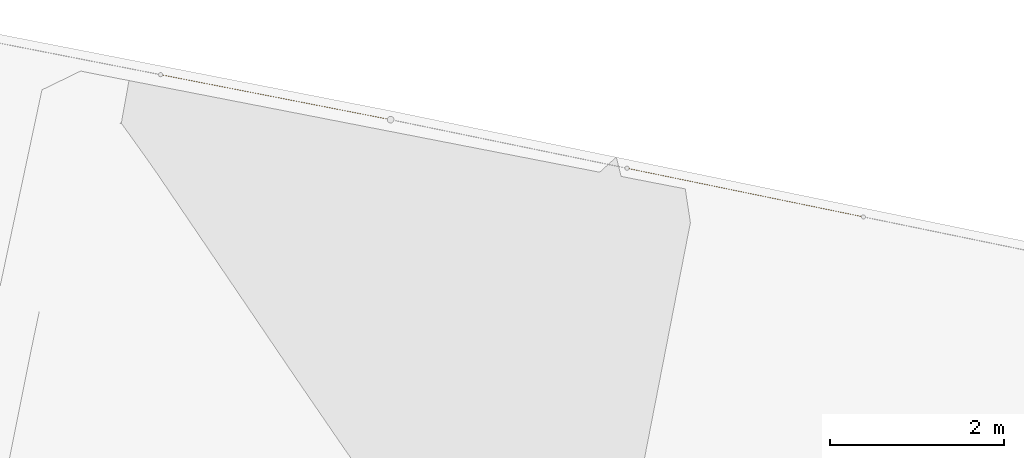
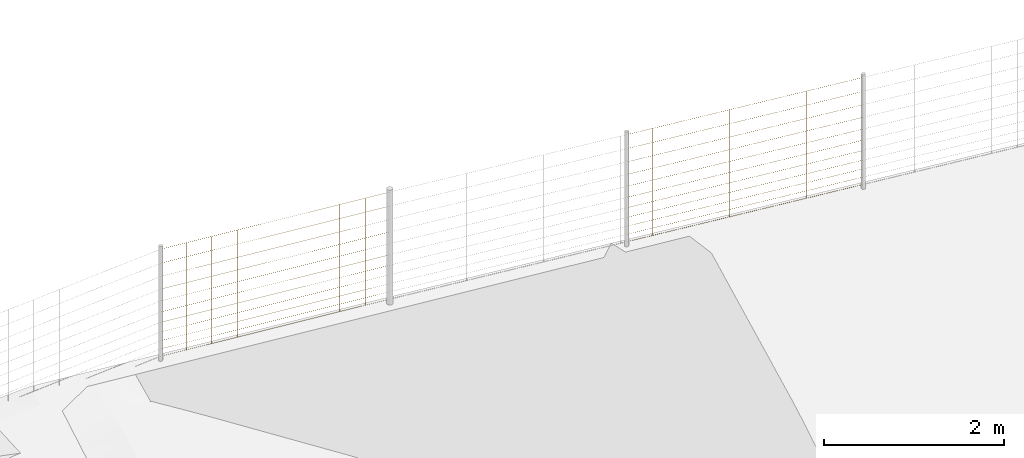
# Not in any storey, part 33 of 72: 2 railings.
"""IFC4 model written with IfcOpenShell, lengths in metres."""

from ifc_helpers import new_model, si_unit, direction, frame, origin_with_axes, place, context, subcontext, project, spatial, polygons, material, element, save


model = new_model("IFC4")

# Units and contexts
model_context = context("Model", 3, precision=1e-05, world=origin_with_axes(), true_north=direction((0.0, 1.0)))
body_context = subcontext(model_context, "Body", "Model", "MODEL_VIEW")
ifc_project = project(units=[si_unit("AREAUNIT", "SQUARE_METRE"), si_unit("VOLUMEUNIT", "CUBIC_METRE"), si_unit("LENGTHUNIT", "METRE")], contexts=[model_context])

# Site
site_placement = place(None, origin_with_axes())
site = spatial("IfcSite", under=ifc_project, at=site_placement, Name="Lares · Rua das Mercês · artigo 4771")

# Railings
ifc_material = material(Name="Aço galvanizado / Stahl verzinkt", Category="steel")
railing_1_placement = place(site_placement, frame((0.0, 0.0, 0.0), z_axis=(0.0, 0.0, 1.0), x_axis=(1.0, -1.03767253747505e-17, 0.0)))
element("IfcRailing", 1, at=railing_1_placement, inside=site, material=ifc_material, Name="Vedação · rede ovelheira 1.052", ObjectType="SHEEP_WIRE_FENCE", PredefinedType="USERDEFINED", context=body_context, shape_type="Tessellation", body=[
    polygons([(3.20927694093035, 23.9970637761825, 13.3124327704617), (3.20965407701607, 23.9985184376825, 13.310935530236), (3.20985269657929, 24.0000080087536, 13.3124327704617), (3.20947556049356, 23.9985533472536, 13.3139300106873), (5.84734411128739, 23.4811799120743, 13.4757158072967), (5.84772124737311, 23.4826345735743, 13.4742185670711), (5.84791986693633, 23.4841241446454, 13.4757158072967), (5.8475427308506, 23.4826694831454, 13.4772130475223), (3.20927694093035, 23.9970637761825, 13.4124327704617), (3.20965407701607, 23.9985184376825, 13.410935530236), (3.20985269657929, 24.0000080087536, 13.4124327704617), (3.20947556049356, 23.9985533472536, 13.4139300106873), (5.84734411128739, 23.4811799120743, 13.5757158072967), (5.84772124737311, 23.4826345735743, 13.5742185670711), (5.84791986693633, 23.4841241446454, 13.5757158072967), (5.8475427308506, 23.4826694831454, 13.5772130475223), (3.20927694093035, 23.9970637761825, 13.5224327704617), (3.20965407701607, 23.9985184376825, 13.520935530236), (3.20985269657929, 24.0000080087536, 13.5224327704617), (3.20947556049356, 23.9985533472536, 13.5239300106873), (5.84734411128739, 23.4811799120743, 13.6857158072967), (5.84772124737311, 23.4826345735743, 13.6842185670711), (5.84791986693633, 23.4841241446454, 13.6857158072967), (5.8475427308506, 23.4826694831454, 13.6872130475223), (3.20927694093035, 23.9970637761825, 13.6424327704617), (3.20965407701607, 23.9985184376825, 13.640935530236), (3.20985269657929, 24.0000080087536, 13.6424327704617), (3.20947556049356, 23.9985533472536, 13.6439300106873), (5.84734411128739, 23.4811799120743, 13.8057158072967), (5.84772124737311, 23.4826345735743, 13.8042185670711), (5.84791986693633, 23.4841241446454, 13.8057158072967), (5.8475427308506, 23.4826694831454, 13.8072130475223), (3.20927694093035, 23.9970637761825, 13.7724327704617), (3.20965407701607, 23.9985184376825, 13.770935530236), (3.20985269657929, 24.0000080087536, 13.7724327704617), (3.20947556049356, 23.9985533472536, 13.7739300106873), (5.84734411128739, 23.4811799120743, 13.9357158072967), (5.84772124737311, 23.4826345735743, 13.9342185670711), (5.84791986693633, 23.4841241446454, 13.9357158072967), (5.8475427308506, 23.4826694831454, 13.9372130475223), (3.20927694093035, 23.9970637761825, 13.9124327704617), (3.20965407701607, 23.9985184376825, 13.910935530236), (3.20985269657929, 24.0000080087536, 13.9124327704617), (3.20947556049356, 23.9985533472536, 13.9139300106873), (5.84734411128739, 23.4811799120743, 14.0757158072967), (5.84772124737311, 23.4826345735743, 14.0742185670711), (5.84791986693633, 23.4841241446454, 14.0757158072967), (5.8475427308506, 23.4826694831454, 14.0772130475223), (3.20927694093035, 23.9970637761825, 14.0624327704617), (3.20965407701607, 23.9985184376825, 14.060935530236), (3.20985269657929, 24.0000080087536, 14.0624327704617), (3.20947556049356, 23.9985533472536, 14.0639300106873), (5.84734411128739, 23.4811799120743, 14.2257158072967), (5.84772124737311, 23.4826345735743, 14.2242185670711), (5.84791986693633, 23.4841241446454, 14.2257158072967), (5.8475427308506, 23.4826694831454, 14.2272130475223), (3.20927694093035, 23.9970637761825, 14.2224327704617), (3.20965407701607, 23.9985184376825, 14.220935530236), (3.20985269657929, 24.0000080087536, 14.2224327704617), (3.20947556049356, 23.9985533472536, 14.2239300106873), (5.84734411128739, 23.4811799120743, 14.3857158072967), (5.84772124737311, 23.4826345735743, 14.3842185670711), (5.84791986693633, 23.4841241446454, 14.3857158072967), (5.8475427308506, 23.4826694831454, 14.3872130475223), (3.20927694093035, 23.9970637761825, 14.3924327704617), (3.20965407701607, 23.9985184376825, 14.390935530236), (3.20985269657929, 24.0000080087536, 14.3924327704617), (3.20947556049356, 23.9985533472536, 14.3939300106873), (5.84734411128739, 23.4811799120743, 14.5557158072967), (5.84772124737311, 23.4826345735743, 14.5542185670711), (5.84791986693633, 23.4841241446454, 14.5557158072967), (5.8475427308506, 23.4826694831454, 14.5572130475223), (3.20927694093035, 23.9970637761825, 14.5724327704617), (3.20965407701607, 23.9985184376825, 14.570935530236), (3.20985269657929, 24.0000080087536, 14.5724327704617), (3.20947556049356, 23.9985533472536, 14.5739300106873), (5.84734411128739, 23.4811799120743, 14.7357158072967), (5.84772124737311, 23.4826345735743, 14.7342185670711), (5.84791986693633, 23.4841241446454, 14.7357158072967), (5.8475427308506, 23.4826694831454, 14.7372130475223), (3.20927694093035, 23.9970637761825, 14.7624327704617), (3.20965407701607, 23.9985184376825, 14.760935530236), (3.20985269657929, 24.0000080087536, 14.7624327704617), (3.20947556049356, 23.9985533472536, 14.7639300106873), (5.84734411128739, 23.4811799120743, 14.9257158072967), (5.84772124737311, 23.4826345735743, 14.9242185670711), (5.84791986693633, 23.4841241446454, 14.9257158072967), (5.8475427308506, 23.4826694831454, 14.9272130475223), (3.50398807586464, 23.9424603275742, 13.3306560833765), (3.50248807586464, 23.9409603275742, 13.3306560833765), (3.50398807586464, 23.9394603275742, 13.3306560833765), (3.50548807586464, 23.9409603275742, 13.3306560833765), (3.50398807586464, 23.9424603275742, 14.7806560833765), (3.50248807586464, 23.9409603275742, 14.7806560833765), (3.50398807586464, 23.9394603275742, 14.7806560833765), (3.50548807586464, 23.9409603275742, 14.7806560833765), (3.79841133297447, 23.8848847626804, 13.3488793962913), (3.79691133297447, 23.8833847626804, 13.3488793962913), (3.79841133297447, 23.8818847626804, 13.3488793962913), (3.79991133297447, 23.8833847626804, 13.3488793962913), (3.79841133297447, 23.8848847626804, 14.7988793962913), (3.79691133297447, 23.8833847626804, 14.7988793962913), (3.79841133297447, 23.8818847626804, 14.7988793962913), (3.79991133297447, 23.8833847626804, 14.7988793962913), (4.0928345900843, 23.8273091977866, 13.3671027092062), (4.0913345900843, 23.8258091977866, 13.3671027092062), (4.0928345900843, 23.8243091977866, 13.3671027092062), (4.0943345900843, 23.8258091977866, 13.3671027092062), (4.0928345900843, 23.8273091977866, 14.8171027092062), (4.0913345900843, 23.8258091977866, 14.8171027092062), (4.0928345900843, 23.8243091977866, 14.8171027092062), (4.0943345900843, 23.8258091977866, 14.8171027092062), (4.38725784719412, 23.7697336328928, 13.385326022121), (4.38575784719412, 23.7682336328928, 13.385326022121), (4.38725784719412, 23.7667336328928, 13.385326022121), (4.38875784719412, 23.7682336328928, 13.385326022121), (4.38725784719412, 23.7697336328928, 14.835326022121), (4.38575784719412, 23.7682336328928, 14.835326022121), (4.38725784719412, 23.7667336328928, 14.835326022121), (4.38875784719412, 23.7682336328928, 14.835326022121), (4.68168110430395, 23.712158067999, 13.4035493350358), (4.68018110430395, 23.710658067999, 13.4035493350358), (4.68168110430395, 23.709158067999, 13.4035493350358), (4.68318110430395, 23.710658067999, 13.4035493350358), (4.68168110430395, 23.712158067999, 14.8535493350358), (4.68018110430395, 23.710658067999, 14.8535493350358), (4.68168110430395, 23.709158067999, 14.8535493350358), (4.68318110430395, 23.710658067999, 14.8535493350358), (4.97610436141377, 23.6545825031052, 13.4217726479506), (4.97460436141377, 23.6530825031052, 13.4217726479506), (4.97610436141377, 23.6515825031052, 13.4217726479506), (4.97760436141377, 23.6530825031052, 13.4217726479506), (4.97610436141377, 23.6545825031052, 14.8717726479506), (4.97460436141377, 23.6530825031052, 14.8717726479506), (4.97610436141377, 23.6515825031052, 14.8717726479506), (4.97760436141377, 23.6530825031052, 14.8717726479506), (5.2705276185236, 23.5970069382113, 13.4399959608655), (5.2690276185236, 23.5955069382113, 13.4399959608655), (5.2705276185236, 23.5940069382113, 13.4399959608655), (5.2720276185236, 23.5955069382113, 13.4399959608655), (5.2705276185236, 23.5970069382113, 14.8899959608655), (5.2690276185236, 23.5955069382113, 14.8899959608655), (5.2705276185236, 23.5940069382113, 14.8899959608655), (5.2720276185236, 23.5955069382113, 14.8899959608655), (5.56495087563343, 23.5394313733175, 13.4582192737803), (5.56345087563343, 23.5379313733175, 13.4582192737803), (5.56495087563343, 23.5364313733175, 13.4582192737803), (5.56645087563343, 23.5379313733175, 13.4582192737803), (5.56495087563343, 23.5394313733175, 14.9082192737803), (5.56345087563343, 23.5379313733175, 14.9082192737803), (5.56495087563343, 23.5364313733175, 14.9082192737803), (5.56645087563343, 23.5379313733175, 14.9082192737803)], [[[4, 3, 2, 1]], [[5, 6, 7, 8]], [[1, 2, 6, 5]], [[2, 3, 7, 6]], [[3, 4, 8, 7]], [[4, 1, 5, 8]], [[12, 11, 10, 9]], [[13, 14, 15, 16]], [[9, 10, 14, 13]], [[10, 11, 15, 14]], [[11, 12, 16, 15]], [[12, 9, 13, 16]], [[20, 19, 18, 17]], [[21, 22, 23, 24]], [[17, 18, 22, 21]], [[18, 19, 23, 22]], [[19, 20, 24, 23]], [[20, 17, 21, 24]], [[28, 27, 26, 25]], [[29, 30, 31, 32]], [[25, 26, 30, 29]], [[26, 27, 31, 30]], [[27, 28, 32, 31]], [[28, 25, 29, 32]], [[36, 35, 34, 33]], [[37, 38, 39, 40]], [[33, 34, 38, 37]], [[34, 35, 39, 38]], [[35, 36, 40, 39]], [[36, 33, 37, 40]], [[44, 43, 42, 41]], [[45, 46, 47, 48]], [[41, 42, 46, 45]], [[42, 43, 47, 46]], [[43, 44, 48, 47]], [[44, 41, 45, 48]], [[52, 51, 50, 49]], [[53, 54, 55, 56]], [[49, 50, 54, 53]], [[50, 51, 55, 54]], [[51, 52, 56, 55]], [[52, 49, 53, 56]], [[60, 59, 58, 57]], [[61, 62, 63, 64]], [[57, 58, 62, 61]], [[58, 59, 63, 62]], [[59, 60, 64, 63]], [[60, 57, 61, 64]], [[68, 67, 66, 65]], [[69, 70, 71, 72]], [[65, 66, 70, 69]], [[66, 67, 71, 70]], [[67, 68, 72, 71]], [[68, 65, 69, 72]], [[76, 75, 74, 73]], [[77, 78, 79, 80]], [[73, 74, 78, 77]], [[74, 75, 79, 78]], [[75, 76, 80, 79]], [[76, 73, 77, 80]], [[84, 83, 82, 81]], [[85, 86, 87, 88]], [[81, 82, 86, 85]], [[82, 83, 87, 86]], [[83, 84, 88, 87]], [[84, 81, 85, 88]], [[92, 91, 90, 89]], [[93, 94, 95, 96]], [[89, 90, 94, 93]], [[90, 91, 95, 94]], [[91, 92, 96, 95]], [[92, 89, 93, 96]], [[100, 99, 98, 97]], [[101, 102, 103, 104]], [[97, 98, 102, 101]], [[98, 99, 103, 102]], [[99, 100, 104, 103]], [[100, 97, 101, 104]], [[108, 107, 106, 105]], [[109, 110, 111, 112]], [[105, 106, 110, 109]], [[106, 107, 111, 110]], [[107, 108, 112, 111]], [[108, 105, 109, 112]], [[116, 115, 114, 113]], [[117, 118, 119, 120]], [[113, 114, 118, 117]], [[114, 115, 119, 118]], [[115, 116, 120, 119]], [[116, 113, 117, 120]], [[124, 123, 122, 121]], [[125, 126, 127, 128]], [[121, 122, 126, 125]], [[122, 123, 127, 126]], [[123, 124, 128, 127]], [[124, 121, 125, 128]], [[132, 131, 130, 129]], [[133, 134, 135, 136]], [[129, 130, 134, 133]], [[130, 131, 135, 134]], [[131, 132, 136, 135]], [[132, 129, 133, 136]], [[140, 139, 138, 137]], [[141, 142, 143, 144]], [[137, 138, 142, 141]], [[138, 139, 143, 142]], [[139, 140, 144, 143]], [[140, 137, 141, 144]], [[148, 147, 146, 145]], [[149, 150, 151, 152]], [[145, 146, 150, 149]], [[146, 147, 151, 150]], [[147, 148, 152, 151]], [[148, 145, 149, 152]]]),
])
railing_2_placement = place(site_placement, frame((0.0, 0.0, 0.0), z_axis=(0.0, 0.0, 1.0), x_axis=(1.0, -1.03767253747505e-17, 0.0)))
element("IfcRailing", 2, at=railing_2_placement, inside=site, material=ifc_material, Name="Vedação · rede ovelheira 1.054", ObjectType="SHEEP_WIRE_FENCE", PredefinedType="USERDEFINED", context=body_context, shape_type="Tessellation", body=[
    polygons([(8.55881403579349, 22.9235723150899, 13.6414189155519), (8.55920397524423, 22.9250235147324, 13.6399215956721), (8.55941833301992, 22.9265108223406, 13.6414189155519), (8.55902839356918, 22.9250596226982, 13.6429162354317), (11.2702982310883, 22.3659618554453, 13.8071220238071), (11.2706881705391, 22.3674130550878, 13.8056247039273), (11.2709025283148, 22.368900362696, 13.8071220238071), (11.270512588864, 22.3674491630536, 13.8086193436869), (8.55881403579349, 22.9235723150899, 13.7414189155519), (8.55920397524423, 22.9250235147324, 13.7399215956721), (8.55941833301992, 22.9265108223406, 13.7414189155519), (8.55902839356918, 22.9250596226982, 13.7429162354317), (11.2702982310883, 22.3659618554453, 13.9071220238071), (11.2706881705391, 22.3674130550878, 13.9056247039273), (11.2709025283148, 22.368900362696, 13.9071220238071), (11.270512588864, 22.3674491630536, 13.9086193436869), (8.55881403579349, 22.9235723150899, 13.8514189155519), (8.55920397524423, 22.9250235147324, 13.8499215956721), (8.55941833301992, 22.9265108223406, 13.8514189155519), (8.55902839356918, 22.9250596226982, 13.8529162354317), (11.2702982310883, 22.3659618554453, 14.0171220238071), (11.2706881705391, 22.3674130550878, 14.0156247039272), (11.2709025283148, 22.368900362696, 14.0171220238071), (11.270512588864, 22.3674491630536, 14.0186193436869), (8.55881403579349, 22.9235723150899, 13.9714189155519), (8.55920397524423, 22.9250235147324, 13.9699215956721), (8.55941833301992, 22.9265108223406, 13.9714189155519), (8.55902839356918, 22.9250596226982, 13.9729162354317), (11.2702982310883, 22.3659618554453, 14.1371220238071), (11.2706881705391, 22.3674130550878, 14.1356247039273), (11.2709025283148, 22.368900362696, 14.1371220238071), (11.270512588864, 22.3674491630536, 14.1386193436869), (8.55881403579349, 22.9235723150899, 14.1014189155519), (8.55920397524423, 22.9250235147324, 14.0999215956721), (8.55941833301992, 22.9265108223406, 14.1014189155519), (8.55902839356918, 22.9250596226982, 14.1029162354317), (11.2702982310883, 22.3659618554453, 14.2671220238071), (11.2706881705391, 22.3674130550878, 14.2656247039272), (11.2709025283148, 22.368900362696, 14.2671220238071), (11.270512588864, 22.3674491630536, 14.2686193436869), (8.55881403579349, 22.9235723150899, 14.2414189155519), (8.55920397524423, 22.9250235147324, 14.2399215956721), (8.55941833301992, 22.9265108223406, 14.2414189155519), (8.55902839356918, 22.9250596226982, 14.2429162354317), (11.2702982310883, 22.3659618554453, 14.4071220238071), (11.2706881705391, 22.3674130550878, 14.4056247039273), (11.2709025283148, 22.368900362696, 14.4071220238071), (11.270512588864, 22.3674491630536, 14.4086193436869), (8.55881403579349, 22.9235723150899, 14.3914189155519), (8.55920397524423, 22.9250235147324, 14.3899215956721), (8.55941833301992, 22.9265108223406, 14.3914189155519), (8.55902839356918, 22.9250596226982, 14.3929162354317), (11.2702982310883, 22.3659618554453, 14.5571220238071), (11.2706881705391, 22.3674130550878, 14.5556247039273), (11.2709025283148, 22.368900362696, 14.5571220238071), (11.270512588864, 22.3674491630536, 14.5586193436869), (8.55881403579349, 22.9235723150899, 14.5514189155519), (8.55920397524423, 22.9250235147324, 14.5499215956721), (8.55941833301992, 22.9265108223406, 14.5514189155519), (8.55902839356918, 22.9250596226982, 14.5529162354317), (11.2702982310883, 22.3659618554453, 14.7171220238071), (11.2706881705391, 22.3674130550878, 14.7156247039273), (11.2709025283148, 22.368900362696, 14.7171220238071), (11.270512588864, 22.3674491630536, 14.7186193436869), (8.55881403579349, 22.9235723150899, 14.7214189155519), (8.55920397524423, 22.9250235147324, 14.7199215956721), (8.55941833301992, 22.9265108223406, 14.7214189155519), (8.55902839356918, 22.9250596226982, 14.7229162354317), (11.2702982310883, 22.3659618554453, 14.8871220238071), (11.2706881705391, 22.3674130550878, 14.8856247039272), (11.2709025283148, 22.368900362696, 14.8871220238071), (11.270512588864, 22.3674491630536, 14.8886193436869), (8.55881403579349, 22.9235723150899, 14.9014189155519), (8.55920397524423, 22.9250235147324, 14.8999215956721), (8.55941833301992, 22.9265108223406, 14.9014189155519), (8.55902839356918, 22.9250596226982, 14.9029162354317), (11.2702982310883, 22.3659618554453, 15.0671220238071), (11.2706881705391, 22.3674130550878, 15.0656247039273), (11.2709025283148, 22.368900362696, 15.0671220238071), (11.270512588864, 22.3674491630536, 15.0686193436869), (8.55881403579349, 22.9235723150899, 15.0914189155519), (8.55920397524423, 22.9250235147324, 15.0899215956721), (8.55941833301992, 22.9265108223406, 15.0914189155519), (8.55902839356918, 22.9250596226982, 15.0929162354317), (11.2702982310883, 22.3659618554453, 15.2571220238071), (11.2706881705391, 22.3674130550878, 15.2556247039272), (11.2709025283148, 22.368900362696, 15.2571220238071), (11.270512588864, 22.3674491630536, 15.2586193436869), (8.85296690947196, 22.866111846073, 13.6593766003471), (8.85146690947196, 22.864611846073, 13.6593766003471), (8.85296690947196, 22.863111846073, 13.6593766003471), (8.85446690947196, 22.864611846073, 13.6593766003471), (8.85296690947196, 22.866111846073, 15.1093766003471), (8.85146690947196, 22.864611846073, 15.1093766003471), (8.85296690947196, 22.863111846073, 15.1093766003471), (8.85446690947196, 22.864611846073, 15.1093766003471), (9.14681763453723, 22.8056821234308, 13.6773342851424), (9.14531763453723, 22.8041821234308, 13.6773342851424), (9.14681763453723, 22.8026821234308, 13.6773342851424), (9.14831763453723, 22.8041821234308, 13.6773342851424), (9.14681763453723, 22.8056821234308, 15.1273342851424), (9.14531763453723, 22.8041821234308, 15.1273342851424), (9.14681763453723, 22.8026821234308, 15.1273342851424), (9.14831763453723, 22.8041821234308, 15.1273342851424), (9.44066835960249, 22.7452524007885, 13.6952919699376), (9.43916835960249, 22.7437524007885, 13.6952919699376), (9.44066835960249, 22.7422524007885, 13.6952919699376), (9.44216835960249, 22.7437524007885, 13.6952919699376), (9.44066835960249, 22.7452524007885, 15.1452919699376), (9.43916835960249, 22.7437524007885, 15.1452919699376), (9.44066835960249, 22.7422524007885, 15.1452919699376), (9.44216835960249, 22.7437524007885, 15.1452919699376), (9.73451908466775, 22.6848226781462, 13.7132496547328), (9.73301908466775, 22.6833226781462, 13.7132496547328), (9.73451908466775, 22.6818226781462, 13.7132496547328), (9.73601908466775, 22.6833226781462, 13.7132496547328), (9.73451908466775, 22.6848226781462, 15.1632496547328), (9.73301908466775, 22.6833226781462, 15.1632496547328), (9.73451908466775, 22.6818226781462, 15.1632496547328), (9.73601908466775, 22.6833226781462, 15.1632496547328), (10.028369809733, 22.624392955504, 13.731207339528), (10.026869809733, 22.622892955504, 13.731207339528), (10.028369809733, 22.621392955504, 13.731207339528), (10.029869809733, 22.622892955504, 13.731207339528), (10.028369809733, 22.624392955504, 15.181207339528), (10.026869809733, 22.622892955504, 15.181207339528), (10.028369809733, 22.621392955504, 15.181207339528), (10.029869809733, 22.622892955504, 15.181207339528), (10.3222205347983, 22.5639632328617, 13.7491650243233), (10.3207205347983, 22.5624632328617, 13.7491650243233), (10.3222205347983, 22.5609632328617, 13.7491650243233), (10.3237205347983, 22.5624632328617, 13.7491650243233), (10.3222205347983, 22.5639632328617, 15.1991650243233), (10.3207205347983, 22.5624632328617, 15.1991650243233), (10.3222205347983, 22.5609632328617, 15.1991650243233), (10.3237205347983, 22.5624632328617, 15.1991650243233), (10.6160712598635, 22.5035335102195, 13.7671227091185), (10.6145712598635, 22.5020335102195, 13.7671227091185), (10.6160712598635, 22.5005335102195, 13.7671227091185), (10.6175712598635, 22.5020335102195, 13.7671227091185), (10.6160712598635, 22.5035335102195, 15.2171227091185), (10.6145712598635, 22.5020335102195, 15.2171227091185), (10.6160712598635, 22.5005335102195, 15.2171227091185), (10.6175712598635, 22.5020335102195, 15.2171227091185), (10.9099219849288, 22.4431037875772, 13.7850803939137), (10.9084219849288, 22.4416037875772, 13.7850803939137), (10.9099219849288, 22.4401037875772, 13.7850803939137), (10.9114219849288, 22.4416037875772, 13.7850803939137), (10.9099219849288, 22.4431037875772, 15.2350803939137), (10.9084219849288, 22.4416037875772, 15.2350803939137), (10.9099219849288, 22.4401037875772, 15.2350803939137), (10.9114219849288, 22.4416037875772, 15.2350803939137), (11.2037727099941, 22.3826740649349, 13.803038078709), (11.2022727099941, 22.3811740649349, 13.803038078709), (11.2037727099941, 22.3796740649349, 13.803038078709), (11.2052727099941, 22.3811740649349, 13.803038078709), (11.2037727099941, 22.3826740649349, 15.253038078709), (11.2022727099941, 22.3811740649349, 15.253038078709), (11.2037727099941, 22.3796740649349, 15.253038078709), (11.2052727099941, 22.3811740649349, 15.253038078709)], [[[4, 3, 2, 1]], [[5, 6, 7, 8]], [[1, 2, 6, 5]], [[2, 3, 7, 6]], [[3, 4, 8, 7]], [[4, 1, 5, 8]], [[12, 11, 10, 9]], [[13, 14, 15, 16]], [[9, 10, 14, 13]], [[10, 11, 15, 14]], [[11, 12, 16, 15]], [[12, 9, 13, 16]], [[20, 19, 18, 17]], [[21, 22, 23, 24]], [[17, 18, 22, 21]], [[18, 19, 23, 22]], [[19, 20, 24, 23]], [[20, 17, 21, 24]], [[28, 27, 26, 25]], [[29, 30, 31, 32]], [[25, 26, 30, 29]], [[26, 27, 31, 30]], [[27, 28, 32, 31]], [[28, 25, 29, 32]], [[36, 35, 34, 33]], [[37, 38, 39, 40]], [[33, 34, 38, 37]], [[34, 35, 39, 38]], [[35, 36, 40, 39]], [[36, 33, 37, 40]], [[44, 43, 42, 41]], [[45, 46, 47, 48]], [[41, 42, 46, 45]], [[42, 43, 47, 46]], [[43, 44, 48, 47]], [[44, 41, 45, 48]], [[52, 51, 50, 49]], [[53, 54, 55, 56]], [[49, 50, 54, 53]], [[50, 51, 55, 54]], [[51, 52, 56, 55]], [[52, 49, 53, 56]], [[60, 59, 58, 57]], [[61, 62, 63, 64]], [[57, 58, 62, 61]], [[58, 59, 63, 62]], [[59, 60, 64, 63]], [[60, 57, 61, 64]], [[68, 67, 66, 65]], [[69, 70, 71, 72]], [[65, 66, 70, 69]], [[66, 67, 71, 70]], [[67, 68, 72, 71]], [[68, 65, 69, 72]], [[76, 75, 74, 73]], [[77, 78, 79, 80]], [[73, 74, 78, 77]], [[74, 75, 79, 78]], [[75, 76, 80, 79]], [[76, 73, 77, 80]], [[84, 83, 82, 81]], [[85, 86, 87, 88]], [[81, 82, 86, 85]], [[82, 83, 87, 86]], [[83, 84, 88, 87]], [[84, 81, 85, 88]], [[92, 91, 90, 89]], [[93, 94, 95, 96]], [[89, 90, 94, 93]], [[90, 91, 95, 94]], [[91, 92, 96, 95]], [[92, 89, 93, 96]], [[100, 99, 98, 97]], [[101, 102, 103, 104]], [[97, 98, 102, 101]], [[98, 99, 103, 102]], [[99, 100, 104, 103]], [[100, 97, 101, 104]], [[108, 107, 106, 105]], [[109, 110, 111, 112]], [[105, 106, 110, 109]], [[106, 107, 111, 110]], [[107, 108, 112, 111]], [[108, 105, 109, 112]], [[116, 115, 114, 113]], [[117, 118, 119, 120]], [[113, 114, 118, 117]], [[114, 115, 119, 118]], [[115, 116, 120, 119]], [[116, 113, 117, 120]], [[124, 123, 122, 121]], [[125, 126, 127, 128]], [[121, 122, 126, 125]], [[122, 123, 127, 126]], [[123, 124, 128, 127]], [[124, 121, 125, 128]], [[132, 131, 130, 129]], [[133, 134, 135, 136]], [[129, 130, 134, 133]], [[130, 131, 135, 134]], [[131, 132, 136, 135]], [[132, 129, 133, 136]], [[140, 139, 138, 137]], [[141, 142, 143, 144]], [[137, 138, 142, 141]], [[138, 139, 143, 142]], [[139, 140, 144, 143]], [[140, 137, 141, 144]], [[148, 147, 146, 145]], [[149, 150, 151, 152]], [[145, 146, 150, 149]], [[146, 147, 151, 150]], [[147, 148, 152, 151]], [[148, 145, 149, 152]], [[156, 155, 154, 153]], [[157, 158, 159, 160]], [[153, 154, 158, 157]], [[154, 155, 159, 158]], [[155, 156, 160, 159]], [[156, 153, 157, 160]]]),
])

save(model, "model.ifc")
